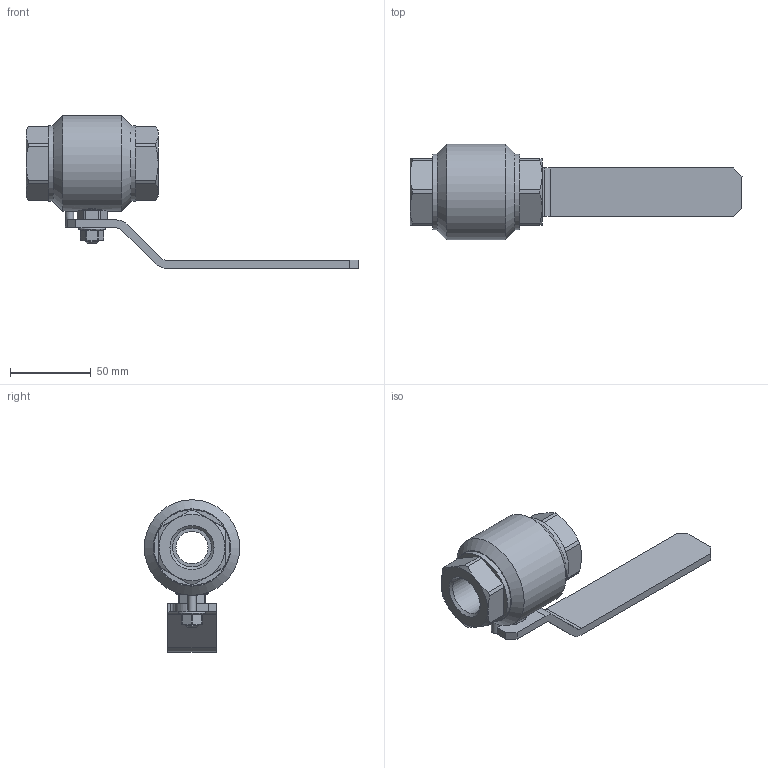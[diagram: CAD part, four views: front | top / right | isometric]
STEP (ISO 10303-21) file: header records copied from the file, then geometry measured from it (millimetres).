
FILE_DESCRIPTION(('STEP AP203'), '1');
FILE_NAME('ZARDP 020.100.10.P.stp', '2013-12-05T11:26:42', ('Øèøêî'), ('Ýíåðïðåä ßðäîñ'), 'ASCON STEP Converter 1.3', 'Kompas 3D', '');
FILE_SCHEMA(('CONFIG_CONTROL_DESIGN','SUPPORT_RESOURCE_SCHEMA'));
Length unit declared in the file: millimetre
Products named in the file (1): 165
Bounding box: 206 x 59.3 x 94.65 mm (x, y, z)
Volume: 159243.4 mm3; surface area: 41203.8 mm2
Topology: 1 solids, 3 shells, 186 faces, 430 edges, 267 vertices
Faces by surface type: plane 98, cylinder 53, cone 34, torus 1
Full cylindrical faces by diameter (mm): 5 x2, 8 x1, 10.7 x1, 10.917 x1, 12 x1, 12.1 x1, 19.8 x1, 20 x4, 24.118 x2, 38.4 x1, 47 x2, 59.3 x1
Entity records: 6679 total; most frequent: CARTESIAN_POINT 2332, DIRECTION 918, ORIENTED_EDGE 860, EDGE_CURVE 430, AXIS2_PLACEMENT_3D 353, VERTEX_POINT 267, LINE 212, VECTOR 212
